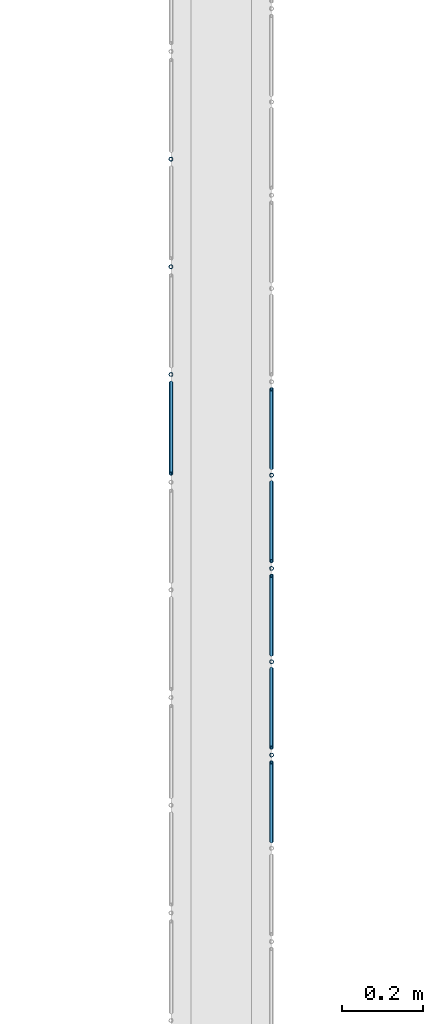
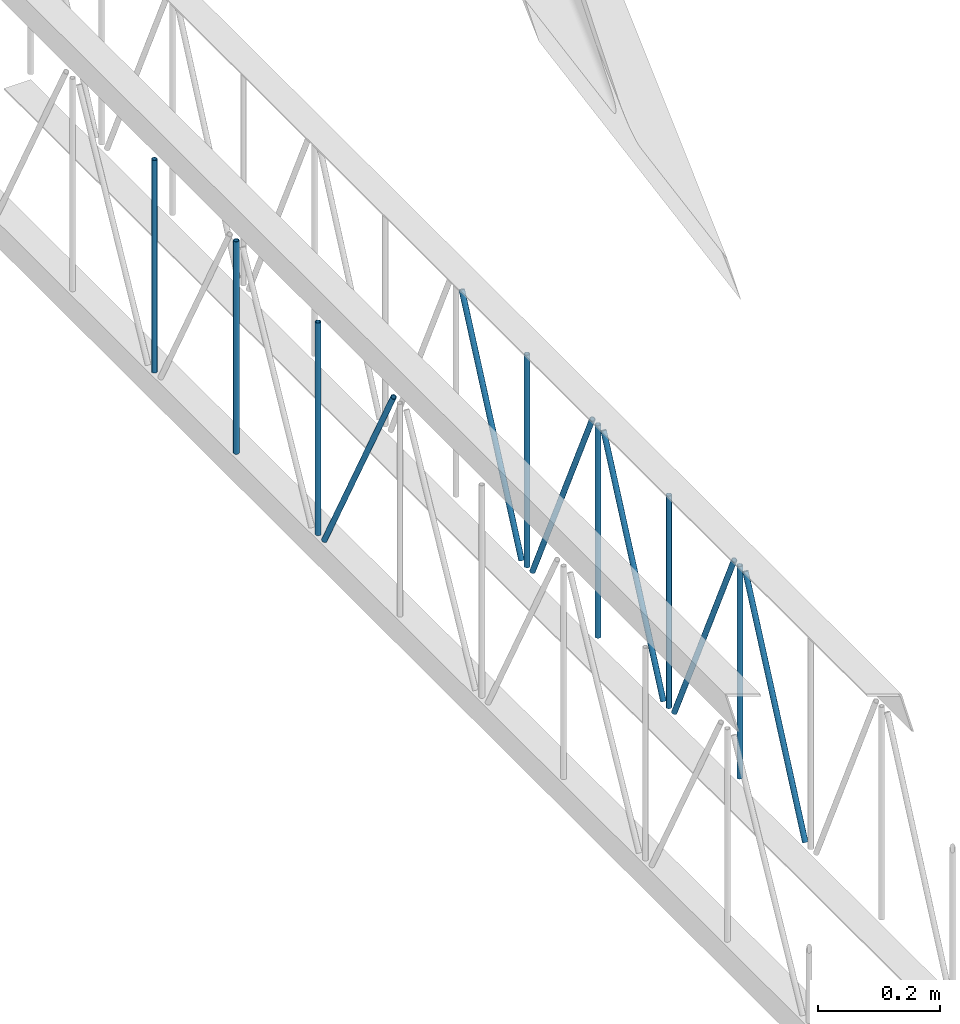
# One storey, part 85 of 153: 13 members, 2 elements without a shape of their own.
"""IFC4 building model written with IfcOpenShell, lengths in metres."""

from ifc_helpers import new_model, entity, si_unit, converted_unit, derived_unit, direction, frame, origin, place, context, subcontext, project, spatial, arc, indexed_curve, outline, extrude, source, transform, mapped, material, type_object, type_shapes, element, aggregate, save


model = new_model("IFC4")

# Units and contexts
model_context = context("Model", 3, precision=1e-05, world=origin(), true_north=direction((6.123031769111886e-17, 1.0)))
body_context = subcontext(model_context, "Body", "Model", "MODEL_VIEW")
ifc_project = project(units=[si_unit("LENGTHUNIT", "METRE"), si_unit("AREAUNIT", "SQUARE_METRE"), si_unit("VOLUMEUNIT", "CUBIC_METRE"), converted_unit("PLANEANGLEUNIT", "DEGREE", entity("IfcRatioMeasure", 0.017453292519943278), si_unit("PLANEANGLEUNIT", "RADIAN"), dimensions=[0, 0, 0, 0, 0, 0, 0]), si_unit("MASSUNIT", "GRAM", prefix="KILO"), derived_unit("MASSDENSITYUNIT", [(si_unit("MASSUNIT", "GRAM", prefix="KILO"), 1), (si_unit("LENGTHUNIT", "METRE"), -3)]), derived_unit("MOMENTOFINERTIAUNIT", [(si_unit("LENGTHUNIT", "METRE"), 4)]), si_unit("TIMEUNIT", "SECOND"), si_unit("FREQUENCYUNIT", "HERTZ"), si_unit("THERMODYNAMICTEMPERATUREUNIT", "DEGREE_CELSIUS"), derived_unit("THERMALTRANSMITTANCEUNIT", [(si_unit("MASSUNIT", "GRAM", prefix="KILO"), 1), (si_unit("THERMODYNAMICTEMPERATUREUNIT", "KELVIN"), -1), (si_unit("TIMEUNIT", "SECOND"), -3)]), derived_unit("VOLUMETRICFLOWRATEUNIT", [(si_unit("LENGTHUNIT", "METRE"), 3), (si_unit("TIMEUNIT", "SECOND"), -1)]), derived_unit("MASSFLOWRATEUNIT", [(si_unit("MASSUNIT", "GRAM", prefix="KILO"), 1), (si_unit("TIMEUNIT", "SECOND"), -1)]), derived_unit("ROTATIONALFREQUENCYUNIT", [(si_unit("TIMEUNIT", "SECOND"), -1)]), si_unit("ELECTRICCURRENTUNIT", "AMPERE"), si_unit("ELECTRICVOLTAGEUNIT", "VOLT"), si_unit("POWERUNIT", "WATT"), si_unit("FORCEUNIT", "NEWTON", prefix="KILO"), si_unit("ILLUMINANCEUNIT", "LUX"), si_unit("LUMINOUSFLUXUNIT", "LUMEN"), si_unit("LUMINOUSINTENSITYUNIT", "CANDELA"), derived_unit("USERDEFINED", [(si_unit("MASSUNIT", "GRAM", prefix="KILO"), -1), (si_unit("LENGTHUNIT", "METRE"), -2), (si_unit("TIMEUNIT", "SECOND"), 3), (si_unit("LUMINOUSFLUXUNIT", "LUMEN"), 1)]), derived_unit("SOUNDPOWERUNIT", [(si_unit("MASSUNIT", "GRAM", prefix="KILO"), 1), (si_unit("LENGTHUNIT", "METRE"), 2), (si_unit("TIMEUNIT", "SECOND"), -3)]), derived_unit("SOUNDPRESSUREUNIT", [(si_unit("MASSUNIT", "GRAM", prefix="KILO"), 1), (si_unit("LENGTHUNIT", "METRE"), -1), (si_unit("TIMEUNIT", "SECOND"), -2)]), derived_unit("LINEARVELOCITYUNIT", [(si_unit("LENGTHUNIT", "METRE"), 1), (si_unit("TIMEUNIT", "SECOND"), -1)]), si_unit("PRESSUREUNIT", "PASCAL"), derived_unit("USERDEFINED", [(si_unit("LENGTHUNIT", "METRE"), -2), (si_unit("MASSUNIT", "GRAM", prefix="KILO"), 1), (si_unit("TIMEUNIT", "SECOND"), -2)]), derived_unit("LINEARFORCEUNIT", [(si_unit("MASSUNIT", "GRAM", prefix="KILO"), 1), (si_unit("LENGTHUNIT", "METRE"), 1), (si_unit("TIMEUNIT", "SECOND"), -2), (si_unit("LENGTHUNIT", "METRE"), -1)]), derived_unit("PLANARFORCEUNIT", [(si_unit("MASSUNIT", "GRAM", prefix="KILO"), 1), (si_unit("LENGTHUNIT", "METRE"), 1), (si_unit("TIMEUNIT", "SECOND"), -2), (si_unit("LENGTHUNIT", "METRE"), -2)])], contexts=[model_context])

# Site, building, storey
site_placement = place(None, origin())
site = spatial("IfcSite", under=ifc_project, at=site_placement, Name="Superficie", CompositionType="ELEMENT")
building_placement = place(site_placement, origin())
building = spatial("IfcBuilding", under=site, at=building_placement, CompositionType="ELEMENT")
storey_placement = place(building_placement, frame((0.0, 0.0, 3.5999999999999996)))
storey = spatial("IfcBuildingStorey", under=building, at=storey_placement, Name="Nivel 1", CompositionType="ELEMENT", Elevation=3.5999999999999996)

# Assembly, members
assembly_1_placement = place(storey_placement, origin())
assembly_1 = element("IfcElementAssembly", 1, at=assembly_1_placement, inside=storey, Name="Viga de celosia 13:Viga de celosia 13", ObjectType="Viga de celosia 13:Viga de celosia 13", AssemblyPlace="NOTDEFINED", PredefinedType="TRUSS")
ifc_material = material(Name="Metal - Calibre delgado", Category="Metal")
member_type_1 = type_object("IfcMemberType", Name="HSS-Tubo estructural redondo:HSS 0.01", PredefinedType="BRACE", material=ifc_material)
shared_shape_1 = source(origin(), body_context, "Body", "SweptSolid", [
    extrude(outline(indexed_curve([(-0.005000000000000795, 7.502054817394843e-18), (-9.800269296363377e-18, -0.005000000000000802), (0.005000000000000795, -7.502054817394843e-18), (8.07772287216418e-18, 0.005000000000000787)], segments=[arc(1, 2, 3), arc(3, 4, 1)], self_intersect=False), holes=[indexed_curve([(0.003999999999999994, 7.222511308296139e-17), (6.910645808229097e-17, -0.004000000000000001), (-0.003999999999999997, -1.8650054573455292e-17), (-2.9156497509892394e-17, 0.003999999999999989)], segments=[arc(1, 2, 3), arc(3, 4, 1)], self_intersect=False)]), frame((-0.21200000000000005, 0.0, 0.0), z_axis=(1.0, 0.0, 0.0), x_axis=(0.0, 1.0, 0.0)), (0.0, 0.0, 1.0), 0.4240000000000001),
])
type_shapes(member_type_1, [shared_shape_1])
member_1_placement = place(assembly_1_placement, frame((15.83679901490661, -11.071002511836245, 0.24999999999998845), z_axis=(0.0, 1.0, 0.0), x_axis=(0.0, 0.0, 1.0)))
member_1 = element("IfcMember", 2, at=member_1_placement, type_object=member_type_1, material=ifc_material, Name="HSS-Tubo estructural redondo:HSS 0.01", ObjectType="HSS-Tubo estructural redondo:HSS 0.01", PredefinedType="BRACE", context=body_context, shape_type="MappedRepresentation", body=[
    mapped(shared_shape_1, transform((0.0, 0.0, 0.0), scale=1.0)),
])
member_2_placement = place(assembly_1_placement, frame((15.83679901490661, -10.803502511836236, 0.25), z_axis=(0.0, 1.0, 0.0), x_axis=(0.0, 0.0, 1.0)))
member_2 = element("IfcMember", 3, at=member_2_placement, type_object=member_type_1, material=ifc_material, Name="HSS-Tubo estructural redondo:HSS 0.01", ObjectType="HSS-Tubo estructural redondo:HSS 0.01", PredefinedType="BRACE", context=body_context, shape_type="MappedRepresentation", body=[
    mapped(shared_shape_1, transform((0.0, 0.0, 0.0), scale=1.0)),
])
member_3_placement = place(assembly_1_placement, frame((15.83679901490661, -10.536002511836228, 0.25), z_axis=(0.0, 1.0, 0.0), x_axis=(0.0, 0.0, 1.0)))
member_3 = element("IfcMember", 4, at=member_3_placement, type_object=member_type_1, material=ifc_material, Name="HSS-Tubo estructural redondo:HSS 0.01", ObjectType="HSS-Tubo estructural redondo:HSS 0.01", PredefinedType="BRACE", context=body_context, shape_type="MappedRepresentation", body=[
    mapped(shared_shape_1, transform((0.0, 0.0, 0.0), scale=1.0)),
])

assembly_2_placement = place(storey_placement, origin())
assembly_2 = element("IfcElementAssembly", 5, at=assembly_2_placement, inside=storey, Name="Viga de celosia 13:Viga de celosia 13", ObjectType="Viga de celosia 13:Viga de celosia 13", AssemblyPlace="NOTDEFINED", PredefinedType="TRUSS")
member_type_2 = type_object("IfcMemberType", Name="HSS-Tubo estructural redondo:HSS 0.01", PredefinedType="BRACE", material=ifc_material)
shared_shape_2 = source(origin(), body_context, "Body", "SweptSolid", [
    extrude(outline(indexed_curve([(-0.005000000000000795, 2.0824731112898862e-17), (-2.3122945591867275e-17, -0.005000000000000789), (0.005000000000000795, -2.08247311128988e-17), (2.14003991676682e-17, 0.005000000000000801)], segments=[arc(1, 2, 3), arc(3, 4, 1)], self_intersect=False), holes=[indexed_curve([(0.003999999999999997, -1.3094283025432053e-17), (-1.531427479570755e-18, -0.003999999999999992), (-0.004, 4.0098531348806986e-17), (4.1481388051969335e-17, 0.0039999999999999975)], segments=[arc(1, 2, 3), arc(3, 4, 1)], self_intersect=False)]), frame((-0.21200000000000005, 0.0, 0.0), z_axis=(1.0, 0.0, 0.0), x_axis=(0.0, -1.0, 0.0)), (0.0, 0.0, 1.0), 0.4240000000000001),
])
type_shapes(member_type_2, [shared_shape_2])
member_4_placement = place(assembly_2_placement, frame((16.086799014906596, -12.016359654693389, 0.25), z_axis=(0.0, 1.0, 0.0), x_axis=(0.0, 0.0, 1.0)))
member_4 = element("IfcMember", 6, at=member_4_placement, type_object=member_type_2, material=ifc_material, Name="HSS-Tubo estructural redondo:HSS 0.01", ObjectType="HSS-Tubo estructural redondo:HSS 0.01", PredefinedType="BRACE", context=body_context, shape_type="MappedRepresentation", body=[
    mapped(shared_shape_2, transform((0.0, 0.0, 0.0), scale=1.0)),
])
member_5_placement = place(assembly_2_placement, frame((16.086799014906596, -11.784573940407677, 0.25), z_axis=(0.0, 1.0, 0.0), x_axis=(0.0, 0.0, 1.0)))
member_5 = element("IfcMember", 7, at=member_5_placement, type_object=member_type_2, material=ifc_material, Name="HSS-Tubo estructural redondo:HSS 0.01", ObjectType="HSS-Tubo estructural redondo:HSS 0.01", PredefinedType="BRACE", context=body_context, shape_type="MappedRepresentation", body=[
    mapped(shared_shape_2, transform((0.0, 0.0, 0.0), scale=1.0)),
])
member_6_placement = place(assembly_2_placement, frame((16.086799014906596, -11.552788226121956, 0.25), z_axis=(0.0, 1.0, 0.0), x_axis=(0.0, 0.0, 1.0)))
member_6 = element("IfcMember", 8, at=member_6_placement, type_object=member_type_2, material=ifc_material, Name="HSS-Tubo estructural redondo:HSS 0.01", ObjectType="HSS-Tubo estructural redondo:HSS 0.01", PredefinedType="BRACE", context=body_context, shape_type="MappedRepresentation", body=[
    mapped(shared_shape_2, transform((0.0, 0.0, 0.0), scale=1.0)),
])
member_7_placement = place(assembly_2_placement, frame((16.086799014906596, -11.321002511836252, 0.24999999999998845), z_axis=(0.0, 1.0, 0.0), x_axis=(0.0, 0.0, 1.0)))
member_7 = element("IfcMember", 9, at=member_7_placement, type_object=member_type_2, material=ifc_material, Name="HSS-Tubo estructural redondo:HSS 0.01", ObjectType="HSS-Tubo estructural redondo:HSS 0.01", PredefinedType="BRACE", context=body_context, shape_type="MappedRepresentation", body=[
    mapped(shared_shape_2, transform((0.0, 0.0, 0.0), scale=1.0)),
])

# Member
member_type_3 = type_object("IfcMemberType", Name="HSS-Tubo estructural redondo:HSS 0.01", PredefinedType="BRACE", material=ifc_material)
shared_shape_3 = source(origin(), body_context, "Body", "SweptSolid", [
    extrude(outline(indexed_curve([(-0.005000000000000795, 7.502054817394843e-18), (-9.800269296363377e-18, -0.005000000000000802), (0.005000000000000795, -7.502054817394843e-18), (8.07772287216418e-18, 0.005000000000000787)], segments=[arc(1, 2, 3), arc(3, 4, 1)], self_intersect=False), holes=[indexed_curve([(0.003999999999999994, 7.222511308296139e-17), (6.910645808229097e-17, -0.004000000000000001), (-0.003999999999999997, -1.8650054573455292e-17), (-2.9156497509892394e-17, 0.003999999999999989)], segments=[arc(1, 2, 3), arc(3, 4, 1)], self_intersect=False)]), frame((-0.23950000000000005, 0.0, 0.0), z_axis=(1.0, 0.0, 0.0), x_axis=(0.0, 1.0, 0.0)), (0.0, 0.0, 1.0), 0.4790000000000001),
])
type_shapes(member_type_3, [shared_shape_3])
member_8_placement = place(assembly_1_placement, frame((15.83679901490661, -11.204752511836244, 0.2499999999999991), z_axis=(0.0, -0.8817419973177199, -0.47173196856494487), x_axis=(0.0, 0.47173196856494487, -0.8817419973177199)))
member_8 = element("IfcMember", 10, at=member_8_placement, type_object=member_type_3, material=ifc_material, Name="HSS-Tubo estructural redondo:HSS 0.01", ObjectType="HSS-Tubo estructural redondo:HSS 0.01", PredefinedType="BRACE", context=body_context, shape_type="MappedRepresentation", body=[
    mapped(shared_shape_3, transform((0.0, 0.0, 0.0), scale=1.0)),
])

aggregate(assembly_1, [member_1, member_2, member_3, member_8])

member_type_4 = type_object("IfcMemberType", Name="HSS-Tubo estructural redondo:HSS 0.01", PredefinedType="BRACE", material=ifc_material)
shared_shape_4 = source(origin(), body_context, "Body", "SweptSolid", [
    extrude(outline(indexed_curve([(-0.005000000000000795, 2.0824731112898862e-17), (-2.3122945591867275e-17, -0.005000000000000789), (0.005000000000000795, -2.08247311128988e-17), (2.14003991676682e-17, 0.005000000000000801)], segments=[arc(1, 2, 3), arc(3, 4, 1)], self_intersect=False), holes=[indexed_curve([(0.003999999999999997, -1.3094283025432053e-17), (-1.531427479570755e-18, -0.003999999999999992), (-0.004, 4.0098531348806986e-17), (4.1481388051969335e-17, 0.0039999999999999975)], segments=[arc(1, 2, 3), arc(3, 4, 1)], self_intersect=False)]), frame((-0.2325, 0.0, 0.0), z_axis=(1.0, 0.0, 0.0), x_axis=(0.0, -1.0, 0.0)), (0.0, 0.0, 1.0), 0.465),
])
type_shapes(member_type_4, [shared_shape_4])
member_9_placement = place(assembly_2_placement, frame((16.086799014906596, -12.13225251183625, 0.25), z_axis=(0.0, 0.9072563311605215, -0.4205781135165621), x_axis=(0.0, 0.4205781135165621, 0.9072563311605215)))
member_9 = element("IfcMember", 11, at=member_9_placement, type_object=member_type_4, material=ifc_material, Name="HSS-Tubo estructural redondo:HSS 0.01", ObjectType="HSS-Tubo estructural redondo:HSS 0.01", PredefinedType="BRACE", context=body_context, shape_type="MappedRepresentation", body=[
    mapped(shared_shape_4, transform((0.0, 0.0, 0.0), scale=1.0)),
])

member_10_placement = place(assembly_2_placement, frame((16.086799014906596, -11.90046679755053, 0.2500000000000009), z_axis=(0.0, -0.907256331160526, -0.4205781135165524), x_axis=(0.0, 0.4205781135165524, -0.907256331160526)))
member_10 = element("IfcMember", 12, at=member_10_placement, type_object=member_type_4, material=ifc_material, Name="HSS-Tubo estructural redondo:HSS 0.01", ObjectType="HSS-Tubo estructural redondo:HSS 0.01", PredefinedType="BRACE", context=body_context, shape_type="MappedRepresentation", body=[
    mapped(shared_shape_4, transform((0.0, 0.0, 0.0), scale=1.0)),
])

member_11_placement = place(assembly_2_placement, frame((16.086799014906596, -11.668681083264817, 0.25), z_axis=(0.0, 0.90725633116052, -0.4205781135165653), x_axis=(0.0, 0.4205781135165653, 0.90725633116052)))
member_11 = element("IfcMember", 13, at=member_11_placement, type_object=member_type_4, material=ifc_material, Name="HSS-Tubo estructural redondo:HSS 0.01", ObjectType="HSS-Tubo estructural redondo:HSS 0.01", PredefinedType="BRACE", context=body_context, shape_type="MappedRepresentation", body=[
    mapped(shared_shape_4, transform((0.0, 0.0, 0.0), scale=1.0)),
])

member_12_placement = place(assembly_2_placement, frame((16.086799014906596, -11.43689536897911, 0.2499999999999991), z_axis=(0.0, -0.9072563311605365, -0.4205781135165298), x_axis=(0.0, 0.4205781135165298, -0.9072563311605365)))
member_12 = element("IfcMember", 14, at=member_12_placement, type_object=member_type_4, material=ifc_material, Name="HSS-Tubo estructural redondo:HSS 0.01", ObjectType="HSS-Tubo estructural redondo:HSS 0.01", PredefinedType="BRACE", context=body_context, shape_type="MappedRepresentation", body=[
    mapped(shared_shape_4, transform((0.0, 0.0, 0.0), scale=1.0)),
])

member_13_placement = place(assembly_2_placement, frame((16.086799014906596, -11.205109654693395, 0.2499999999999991), z_axis=(0.0, 0.907256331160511, -0.42057811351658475), x_axis=(0.0, 0.42057811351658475, 0.907256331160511)))
member_13 = element("IfcMember", 15, at=member_13_placement, type_object=member_type_4, material=ifc_material, Name="HSS-Tubo estructural redondo:HSS 0.01", ObjectType="HSS-Tubo estructural redondo:HSS 0.01", PredefinedType="BRACE", context=body_context, shape_type="MappedRepresentation", body=[
    mapped(shared_shape_4, transform((0.0, 0.0, 0.0), scale=1.0)),
])

aggregate(assembly_2, [member_4, member_5, member_6, member_7, member_9, member_10, member_11, member_12, member_13])

save(model, "model.ifc")
